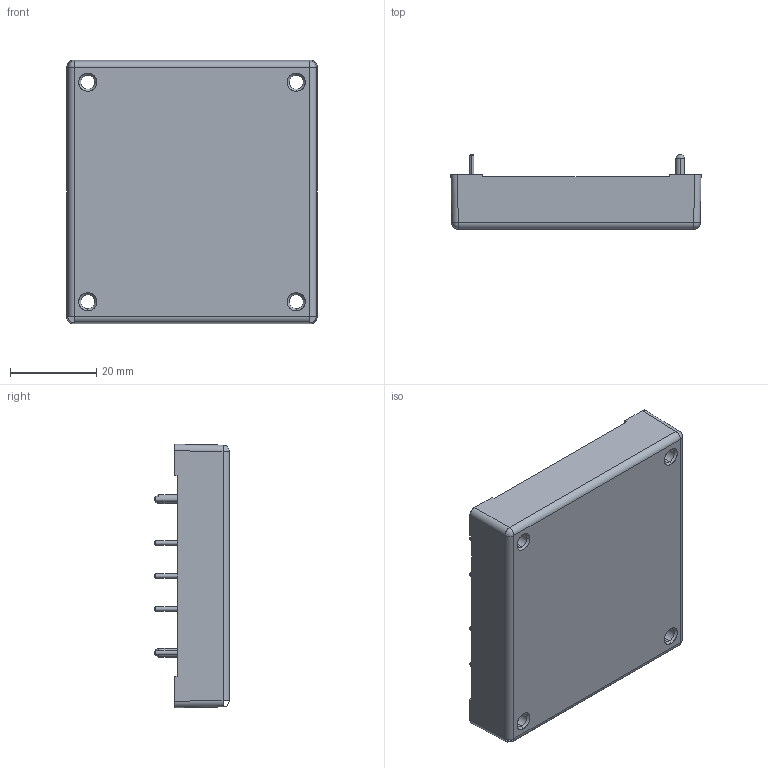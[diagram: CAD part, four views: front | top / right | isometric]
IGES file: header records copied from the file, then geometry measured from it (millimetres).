
Start section: SolidWorks IGES file using analytic representation for surfaces
Global section: file name: C:\Users\ksmith\OneDrive - XP Power\Desktop\Cincon CAD Files to Update\In process\ICH\Through\ICH50 Through hole STEP\ICH50-150 Through hole.IGS; native system: SolidWorks 2020; preprocessor: SolidWorks 2020; author: ksmith; date: 210921.154755; units: inch
Bounding box: 57.9 x 17.3 x 61 mm (x, y, z)
Surface area: 21073.4 mm2 (no closed solid volume)
Topology: 0 solids, 0 shells, 157 faces, 1582 edges, 1572 vertices
Faces by surface type: revolution 98, bspline 59
